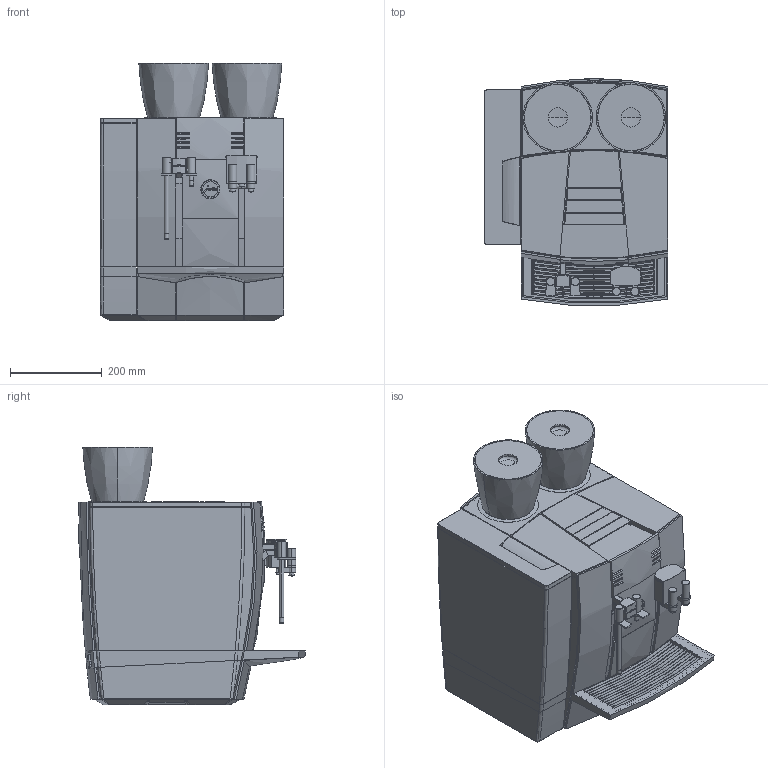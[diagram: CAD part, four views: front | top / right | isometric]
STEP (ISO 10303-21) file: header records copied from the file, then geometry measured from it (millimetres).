
FILE_DESCRIPTION(/* description */ (''),/* implementation_level */ '2;1');
FILE_NAME(/* name */ 'GIGA_X9_Professional_Design.stp',/* time_stamp */ '2012-11-29T16:10:08+01:00',/* author */ (''),/* organization */ (''),/* preprocessor_version */ 'ST-DEVELOPER v11',/* originating_system */ 'SIEMENS UGS NX 6.0',/* authorisation */ '');
FILE_SCHEMA (('AUTOMOTIVE_DESIGN { 1 0 10303 214 1 1 1 1 }'));
Products named in the file (1): GIGA_X9_Professional_Design
Bounding box: 400 x 495.48 x 562.5 mm (x, y, z)
Volume: 50651768.4 mm3; surface area: 3820098.2 mm2
Topology: 90 solids, 93 shells, 1776 faces, 4867 edges, 3177 vertices
Faces by surface type: plane 585, cylinder 423, bspline 409, torus 127, revolution 99, sphere 68, cone 65
Full cylindrical faces by diameter (mm): 2.4 x2, 3.3 x2, 6 x2, 6.2 x4, 10 x2, 10.3 x1, 10.8 x2, 11.6 x2, 15 x1, 26 x1, 27.5 x1, 39 x2, 39.5 x2, 41 x2, 41.5 x2, 132.5 x2
Entity records: 84324 total; most frequent: CARTESIAN_POINT 44289, ORIENTED_EDGE 9468, DIRECTION 6674, EDGE_CURVE 4734, VERTEX_POINT 3147, AXIS2_PLACEMENT_3D 2556, EDGE_LOOP 1891, ADVANCED_FACE 1768
